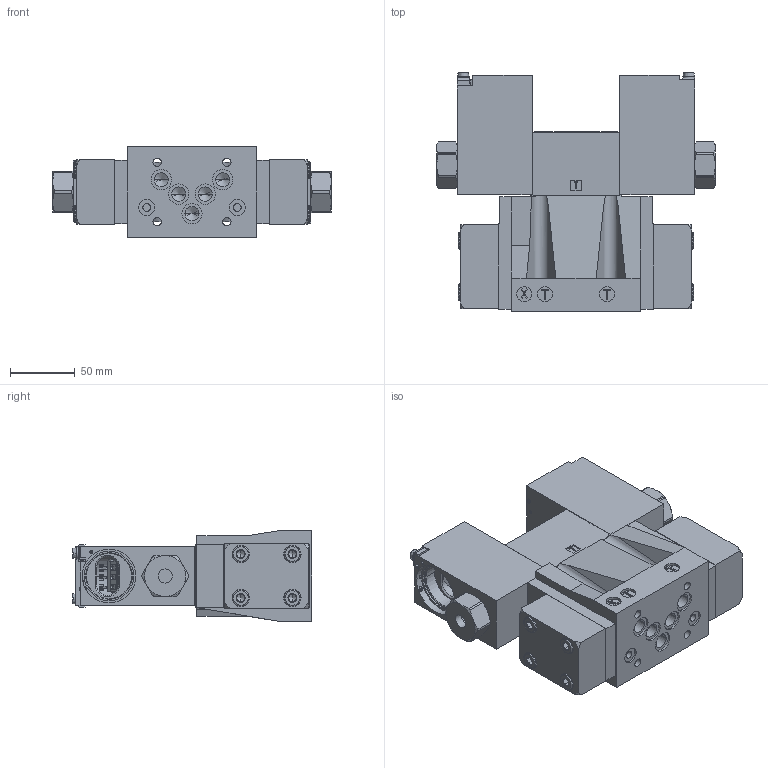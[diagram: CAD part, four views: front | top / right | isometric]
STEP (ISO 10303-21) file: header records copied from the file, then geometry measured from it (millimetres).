
FILE_DESCRIPTION((''),'2;1');
FILE_NAME('RNEHX1-103_ASM','2023-10-03T',('l.soukupova'),(''),'PRO/ENGINEER BY PARAMETRIC TECHNOLOGY CORPORATION, 2015440','PRO/ENGINEER BY PARAMETRIC TECHNOLOGY CORPORATION, 2015440','');
FILE_SCHEMA(('AUTOMOTIVE_DESIGN { 1 0 10303 214 1 1 1 1 }'));
Length unit declared in the file: millimetre
Products named in the file (20): DUPLOMATIC_NG10R_1; RPEX3_063Z11_RD_1; RPEX3_063_ASM_1_ASM; RNEHX1-103_KAT_ASM_1_ASM; 0002710-2-SOLID1; 0002710-3-SOLID1; 0000980-1-SOLID1; 0003649-1-SOLID1; 0000882-1-SOLID1; 0003186-1_0002485-1-SOLID1; 0003186-1_0002629-1-SOLID1; AUFSATZ-LINEAR_AUSTRAGEN1; ASM0001_ASM; EX18-001-D-1-A-012-0_ASM; 0002632; 0003195; 0003194; 0003196_C_0_ASM; 0003196_ASM; RNEHX1-103_ASM
Assembly tree (21 placements, depth 4):
  RNEHX1-103_ASM
    RNEHX1-103_KAT_ASM_1_ASM
      DUPLOMATIC_NG10R_1
      RPEX3_063_ASM_1_ASM
        RPEX3_063Z11_RD_1
    EX18-001-D-1-A-012-0_ASM  x2
      ASM0001_ASM
        0002710-2-SOLID1
        0002710-3-SOLID1
        0000980-1-SOLID1
        0003649-1-SOLID1
        0000882-1-SOLID1
        0003186-1_0002485-1-SOLID1
        0003186-1_0002629-1-SOLID1
        AUFSATZ-LINEAR_AUSTRAGEN1
    0003196_ASM  x2
      0003196_C_0_ASM
        0002632
        0003195
        0003194
Bounding box: 215.7 x 185.53 x 70 mm (x, y, z)
Volume: 1354278.2 mm3; surface area: 201509.6 mm2
Topology: 24 solids, 24 shells, 1613 faces, 4401 edges, 3050 vertices
Faces by surface type: plane 937, cylinder 408, cone 196, torus 60, bspline 8, sphere 4
Entity records: 52364 total; most frequent: CARTESIAN_POINT 9196, DIRECTION 6370, ORIENTED_EDGE 5916, PRESENTATION_STYLE_ASSIGNMENT 3561, STYLED_ITEM 3090, CURVE_STYLE 3077, EDGE_CURVE 2958, AXIS2_PLACEMENT_3D 2227
